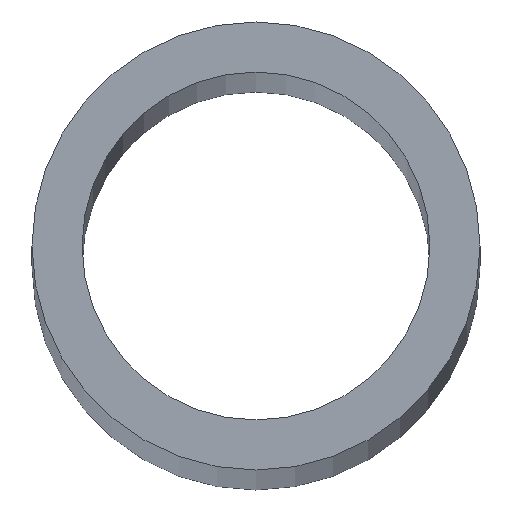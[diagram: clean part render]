
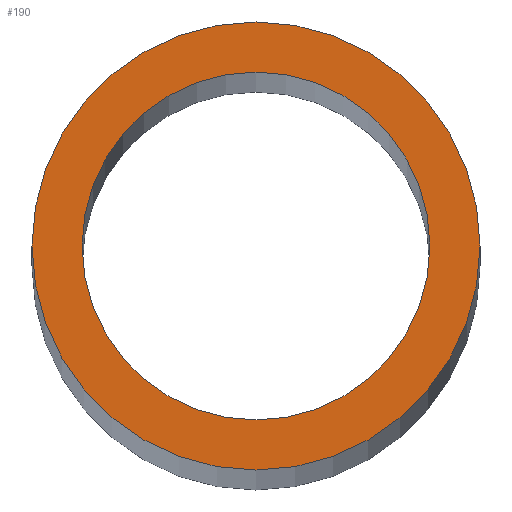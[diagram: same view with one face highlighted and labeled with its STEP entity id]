
A CAD part, top view. The second image highlights one B-rep face of the part: STEP entity #190.
In plain terms, the highlighted planar face has unit normal (0, 0, 1).
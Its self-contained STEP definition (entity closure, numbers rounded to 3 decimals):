
#24 = VERTEX_POINT('',#25);
#25 = CARTESIAN_POINT('',(18.675,0.,388.));
#32 = CYLINDRICAL_SURFACE('',#33,3.175);
#33 = AXIS2_PLACEMENT_3D('',#34,#35,#36);
#34 = CARTESIAN_POINT('',(15.5,0.,226.));
#35 = DIRECTION('',(-0.,-0.,-1.));
#36 = DIRECTION('',(1.,0.,0.));
#51 = EDGE_CURVE('',#24,#24,#52,.T.);
#52 = SURFACE_CURVE('',#53,(#58,#65),.PCURVE_S1.);
#53 = CIRCLE('',#54,3.175);
#54 = AXIS2_PLACEMENT_3D('',#55,#56,#57);
#55 = CARTESIAN_POINT('',(15.5,0.,388.));
#56 = DIRECTION('',(0.,0.,1.));
#57 = DIRECTION('',(1.,0.,0.));
#58 = PCURVE('',#32,#59);
#59 = DEFINITIONAL_REPRESENTATION('',(#60),#64);
#60 = LINE('',#61,#62);
#61 = CARTESIAN_POINT('',(-0.,-162.));
#62 = VECTOR('',#63,1.);
#63 = DIRECTION('',(-1.,0.));
#64 = ( GEOMETRIC_REPRESENTATION_CONTEXT(2) 
PARAMETRIC_REPRESENTATION_CONTEXT() REPRESENTATION_CONTEXT('2D SPACE',''
  ) );
#65 = PCURVE('',#66,#71);
#66 = PLANE('',#67);
#67 = AXIS2_PLACEMENT_3D('',#68,#69,#70);
#68 = CARTESIAN_POINT('',(15.5,0.,388.));
#69 = DIRECTION('',(0.,0.,1.));
#70 = DIRECTION('',(1.,0.,-0.));
#71 = DEFINITIONAL_REPRESENTATION('',(#72),#76);
#72 = CIRCLE('',#73,3.175);
#73 = AXIS2_PLACEMENT_2D('',#74,#75);
#74 = CARTESIAN_POINT('',(0.,0.));
#75 = DIRECTION('',(1.,0.));
#76 = ( GEOMETRIC_REPRESENTATION_CONTEXT(2) 
PARAMETRIC_REPRESENTATION_CONTEXT() REPRESENTATION_CONTEXT('2D SPACE',''
  ) );
#112 = VERTEX_POINT('',#113);
#113 = CARTESIAN_POINT('',(17.965,0.,388.));
#120 = CYLINDRICAL_SURFACE('',#121,2.465);
#121 = AXIS2_PLACEMENT_3D('',#122,#123,#124);
#122 = CARTESIAN_POINT('',(15.5,0.,226.));
#123 = DIRECTION('',(-0.,-0.,-1.));
#124 = DIRECTION('',(1.,0.,0.));
#139 = EDGE_CURVE('',#112,#112,#140,.T.);
#140 = SURFACE_CURVE('',#141,(#146,#153),.PCURVE_S1.);
#141 = CIRCLE('',#142,2.465);
#142 = AXIS2_PLACEMENT_3D('',#143,#144,#145);
#143 = CARTESIAN_POINT('',(15.5,0.,388.));
#144 = DIRECTION('',(0.,0.,1.));
#145 = DIRECTION('',(1.,0.,0.));
#146 = PCURVE('',#120,#147);
#147 = DEFINITIONAL_REPRESENTATION('',(#148),#152);
#148 = LINE('',#149,#150);
#149 = CARTESIAN_POINT('',(-0.,-162.));
#150 = VECTOR('',#151,1.);
#151 = DIRECTION('',(-1.,0.));
#152 = ( GEOMETRIC_REPRESENTATION_CONTEXT(2) 
PARAMETRIC_REPRESENTATION_CONTEXT() REPRESENTATION_CONTEXT('2D SPACE',''
  ) );
#153 = PCURVE('',#66,#154);
#154 = DEFINITIONAL_REPRESENTATION('',(#155),#159);
#155 = CIRCLE('',#156,2.465);
#156 = AXIS2_PLACEMENT_2D('',#157,#158);
#157 = CARTESIAN_POINT('',(0.,0.));
#158 = DIRECTION('',(1.,0.));
#159 = ( GEOMETRIC_REPRESENTATION_CONTEXT(2) 
PARAMETRIC_REPRESENTATION_CONTEXT() REPRESENTATION_CONTEXT('2D SPACE',''
  ) );
#190 = ADVANCED_FACE('',(#191,#194),#66,.T.);
#191 = FACE_BOUND('',#192,.T.);
#192 = EDGE_LOOP('',(#193));
#193 = ORIENTED_EDGE('',*,*,#51,.T.);
#194 = FACE_BOUND('',#195,.T.);
#195 = EDGE_LOOP('',(#196));
#196 = ORIENTED_EDGE('',*,*,#139,.F.);
